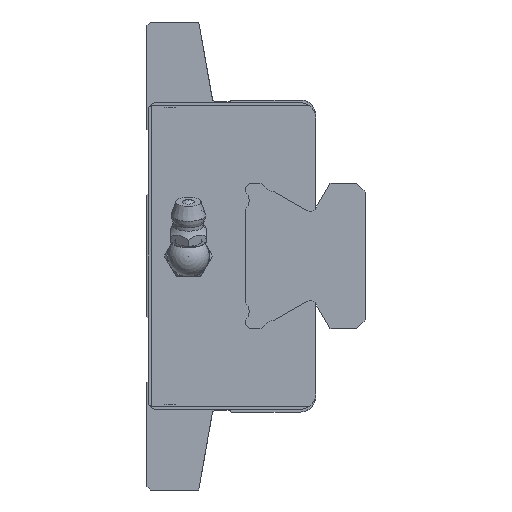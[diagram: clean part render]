
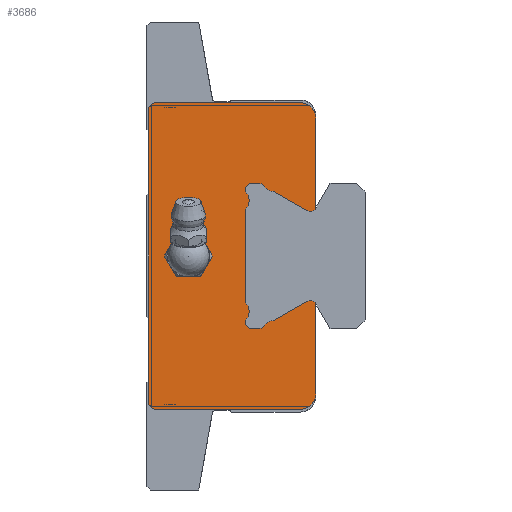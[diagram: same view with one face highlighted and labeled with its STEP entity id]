
A CAD part, left-side view. The second image highlights one B-rep face of the part: STEP entity #3686.
In plain terms, the highlighted planar face has unit normal (-1, 0, 0).
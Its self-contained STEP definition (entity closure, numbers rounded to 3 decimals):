
#111=LINE('',#5713,#443);
#116=LINE('',#5724,#448);
#128=LINE('',#5750,#460);
#135=LINE('',#5779,#467);
#143=LINE('',#5793,#475);
#151=LINE('',#5807,#483);
#153=LINE('',#5812,#485);
#158=LINE('',#5822,#490);
#159=LINE('',#5824,#491);
#160=LINE('',#5828,#492);
#161=LINE('',#5832,#493);
#162=LINE('',#5834,#494);
#163=LINE('',#5836,#495);
#164=LINE('',#5838,#496);
#165=LINE('',#5842,#497);
#166=LINE('',#5846,#498);
#167=LINE('',#5848,#499);
#168=LINE('',#5850,#500);
#169=LINE('',#5852,#501);
#170=LINE('',#5856,#502);
#443=VECTOR('',#4493,1000.);
#448=VECTOR('',#4500,1000.);
#460=VECTOR('',#4518,1000.);
#467=VECTOR('',#4547,1000.);
#475=VECTOR('',#4565,1000.);
#483=VECTOR('',#4577,1000.);
#485=VECTOR('',#4581,1000.);
#490=VECTOR('',#4590,1000.);
#491=VECTOR('',#4591,1000.);
#492=VECTOR('',#4594,1000.);
#493=VECTOR('',#4597,1000.);
#494=VECTOR('',#4598,1000.);
#495=VECTOR('',#4599,1000.);
#496=VECTOR('',#4600,1000.);
#497=VECTOR('',#4603,1000.);
#498=VECTOR('',#4606,1000.);
#499=VECTOR('',#4607,1000.);
#500=VECTOR('',#4608,1000.);
#501=VECTOR('',#4609,1000.);
#502=VECTOR('',#4612,1000.);
#744=PLANE('',#3987);
#958=CIRCLE('',#3971,3.);
#962=CIRCLE('',#3977,3.);
#964=CIRCLE('',#3988,3.);
#965=CIRCLE('',#3989,1.);
#966=CIRCLE('',#3990,2.483);
#967=CIRCLE('',#3991,2.477);
#968=CIRCLE('',#3992,2.477);
#969=CIRCLE('',#3993,2.483);
#970=CIRCLE('',#3994,1.);
#1352=ORIENTED_EDGE('',*,*,#2266,.T.);
#1353=ORIENTED_EDGE('',*,*,#2267,.F.);
#1354=ORIENTED_EDGE('',*,*,#2259,.F.);
#1355=ORIENTED_EDGE('',*,*,#2231,.F.);
#1356=ORIENTED_EDGE('',*,*,#2227,.F.);
#1357=ORIENTED_EDGE('',*,*,#2209,.F.);
#1358=ORIENTED_EDGE('',*,*,#2251,.F.);
#1359=ORIENTED_EDGE('',*,*,#2214,.F.);
#1360=ORIENTED_EDGE('',*,*,#2242,.F.);
#1361=ORIENTED_EDGE('',*,*,#2239,.F.);
#1362=ORIENTED_EDGE('',*,*,#2261,.F.);
#1363=ORIENTED_EDGE('',*,*,#2268,.F.);
#1364=ORIENTED_EDGE('',*,*,#2269,.T.);
#1365=ORIENTED_EDGE('',*,*,#2270,.F.);
#1366=ORIENTED_EDGE('',*,*,#2271,.T.);
#1367=ORIENTED_EDGE('',*,*,#2272,.F.);
#1368=ORIENTED_EDGE('',*,*,#2273,.F.);
#1369=ORIENTED_EDGE('',*,*,#2274,.F.);
#1370=ORIENTED_EDGE('',*,*,#2275,.F.);
#1371=ORIENTED_EDGE('',*,*,#2276,.T.);
#1372=ORIENTED_EDGE('',*,*,#2277,.F.);
#1373=ORIENTED_EDGE('',*,*,#2278,.T.);
#1374=ORIENTED_EDGE('',*,*,#2279,.F.);
#1375=ORIENTED_EDGE('',*,*,#2280,.F.);
#1376=ORIENTED_EDGE('',*,*,#2281,.F.);
#1377=ORIENTED_EDGE('',*,*,#2282,.F.);
#1378=ORIENTED_EDGE('',*,*,#2283,.T.);
#1379=ORIENTED_EDGE('',*,*,#2284,.F.);
#1380=ORIENTED_EDGE('',*,*,#2285,.T.);
#2209=EDGE_CURVE('',#2686,#2687,#111,.T.);
#2214=EDGE_CURVE('',#2691,#2692,#116,.T.);
#2227=EDGE_CURVE('',#2687,#2703,#128,.T.);
#2231=EDGE_CURVE('',#2703,#2705,#958,.T.);
#2239=EDGE_CURVE('',#2712,#2713,#962,.T.);
#2242=EDGE_CURVE('',#2713,#2691,#135,.T.);
#2251=EDGE_CURVE('',#2692,#2686,#143,.T.);
#2259=EDGE_CURVE('',#2705,#2716,#151,.T.);
#2261=EDGE_CURVE('',#2719,#2712,#153,.T.);
#2266=EDGE_CURVE('',#2723,#2723,#964,.T.);
#2267=EDGE_CURVE('',#2716,#2724,#158,.T.);
#2268=EDGE_CURVE('',#2725,#2719,#159,.T.);
#2269=EDGE_CURVE('',#2725,#2726,#965,.F.);
#2270=EDGE_CURVE('',#2727,#2726,#160,.T.);
#2271=EDGE_CURVE('',#2727,#2728,#966,.F.);
#2272=EDGE_CURVE('',#2729,#2728,#161,.T.);
#2273=EDGE_CURVE('',#2730,#2729,#162,.T.);
#2274=EDGE_CURVE('',#2731,#2730,#163,.T.);
#2275=EDGE_CURVE('',#2732,#2731,#164,.T.);
#2276=EDGE_CURVE('',#2732,#2733,#967,.F.);
#2277=EDGE_CURVE('',#2734,#2733,#165,.T.);
#2278=EDGE_CURVE('',#2734,#2735,#968,.F.);
#2279=EDGE_CURVE('',#2736,#2735,#166,.T.);
#2280=EDGE_CURVE('',#2737,#2736,#167,.T.);
#2281=EDGE_CURVE('',#2738,#2737,#168,.T.);
#2282=EDGE_CURVE('',#2739,#2738,#169,.T.);
#2283=EDGE_CURVE('',#2739,#2740,#969,.F.);
#2284=EDGE_CURVE('',#2741,#2740,#170,.T.);
#2285=EDGE_CURVE('',#2741,#2724,#970,.F.);
#2686=VERTEX_POINT('',#5712);
#2687=VERTEX_POINT('',#5714);
#2691=VERTEX_POINT('',#5723);
#2692=VERTEX_POINT('',#5725);
#2703=VERTEX_POINT('',#5751);
#2705=VERTEX_POINT('',#5758);
#2712=VERTEX_POINT('',#5773);
#2713=VERTEX_POINT('',#5775);
#2716=VERTEX_POINT('',#5800);
#2719=VERTEX_POINT('',#5810);
#2723=VERTEX_POINT('',#5821);
#2724=VERTEX_POINT('',#5823);
#2725=VERTEX_POINT('',#5825);
#2726=VERTEX_POINT('',#5827);
#2727=VERTEX_POINT('',#5829);
#2728=VERTEX_POINT('',#5831);
#2729=VERTEX_POINT('',#5833);
#2730=VERTEX_POINT('',#5835);
#2731=VERTEX_POINT('',#5837);
#2732=VERTEX_POINT('',#5839);
#2733=VERTEX_POINT('',#5841);
#2734=VERTEX_POINT('',#5843);
#2735=VERTEX_POINT('',#5845);
#2736=VERTEX_POINT('',#5847);
#2737=VERTEX_POINT('',#5849);
#2738=VERTEX_POINT('',#5851);
#2739=VERTEX_POINT('',#5853);
#2740=VERTEX_POINT('',#5855);
#2741=VERTEX_POINT('',#5857);
#3056=EDGE_LOOP('',(#1352));
#3057=EDGE_LOOP('',(#1353,#1354,#1355,#1356,#1357,#1358,#1359,#1360,#1361,
#1362,#1363,#1364,#1365,#1366,#1367,#1368,#1369,#1370,#1371,#1372,#1373,
#1374,#1375,#1376,#1377,#1378,#1379,#1380));
#3371=FACE_BOUND('',#3056,.T.);
#3372=FACE_BOUND('',#3057,.T.);
#3686=ADVANCED_FACE('',(#3371,#3372),#744,.F.);
#3971=AXIS2_PLACEMENT_3D('',#5757,#4526,#4527);
#3977=AXIS2_PLACEMENT_3D('',#5774,#4541,#4542);
#3987=AXIS2_PLACEMENT_3D('',#5819,#4586,#4587);
#3988=AXIS2_PLACEMENT_3D('',#5820,#4588,#4589);
#3989=AXIS2_PLACEMENT_3D('',#5826,#4592,#4593);
#3990=AXIS2_PLACEMENT_3D('',#5830,#4595,#4596);
#3991=AXIS2_PLACEMENT_3D('',#5840,#4601,#4602);
#3992=AXIS2_PLACEMENT_3D('',#5844,#4604,#4605);
#3993=AXIS2_PLACEMENT_3D('',#5854,#4610,#4611);
#3994=AXIS2_PLACEMENT_3D('',#5858,#4613,#4614);
#4493=DIRECTION('',(0.,-0.707,0.707));
#4500=DIRECTION('',(0.,0.707,0.707));
#4518=DIRECTION('',(0.,-1.,0.));
#4526=DIRECTION('',(1.,0.,0.));
#4527=DIRECTION('',(0.,0.,-1.));
#4541=DIRECTION('',(1.,0.,0.));
#4542=DIRECTION('',(0.,0.,-1.));
#4547=DIRECTION('',(0.,1.,0.));
#4565=DIRECTION('',(0.,0.,1.));
#4577=DIRECTION('',(0.,0.,-1.));
#4581=DIRECTION('',(0.,0.,-1.));
#4586=DIRECTION('',(1.,0.,0.));
#4587=DIRECTION('',(0.,0.,-1.));
#4588=DIRECTION('',(1.,0.,0.));
#4589=DIRECTION('',(0.,0.,-1.));
#4590=DIRECTION('',(0.,0.5,-0.866));
#4591=DIRECTION('',(0.,-0.5,-0.866));
#4592=DIRECTION('',(1.,0.,0.));
#4593=DIRECTION('',(0.,0.,-1.));
#4594=DIRECTION('',(0.,-0.869,0.495));
#4595=DIRECTION('',(1.,0.,0.));
#4596=DIRECTION('',(0.,0.,-1.));
#4597=DIRECTION('',(0.,-0.87,0.494));
#4598=DIRECTION('',(0.,-1.,0.));
#4599=DIRECTION('',(0.,-0.707,-0.707));
#4600=DIRECTION('',(0.,0.,-1.));
#4601=DIRECTION('',(1.,0.,0.));
#4602=DIRECTION('',(0.,0.,-1.));
#4603=DIRECTION('',(0.,0.,-1.));
#4604=DIRECTION('',(1.,0.,0.));
#4605=DIRECTION('',(0.,0.,-1.));
#4606=DIRECTION('',(0.,0.,-1.));
#4607=DIRECTION('',(0.,0.707,-0.707));
#4608=DIRECTION('',(0.,1.,0.));
#4609=DIRECTION('',(0.,0.87,0.494));
#4610=DIRECTION('',(1.,0.,0.));
#4611=DIRECTION('',(0.,0.,-1.));
#4612=DIRECTION('',(0.,0.869,0.495));
#4613=DIRECTION('',(1.,0.,0.));
#4614=DIRECTION('',(0.,0.,-1.));
#5712=CARTESIAN_POINT('',(-33.35,32.1,28.5));
#5713=CARTESIAN_POINT('',(-33.35,32.1,28.5));
#5714=CARTESIAN_POINT('',(-33.35,31.1,29.5));
#5723=CARTESIAN_POINT('',(-33.35,31.1,-29.5));
#5724=CARTESIAN_POINT('',(-33.35,31.1,-29.5));
#5725=CARTESIAN_POINT('',(-33.35,32.1,-28.5));
#5750=CARTESIAN_POINT('',(-33.35,31.1,29.5));
#5751=CARTESIAN_POINT('',(-33.35,3.,29.5));
#5757=CARTESIAN_POINT('',(-33.35,3.,26.5));
#5758=CARTESIAN_POINT('',(-33.35,0.,26.5));
#5773=CARTESIAN_POINT('',(-33.35,0.,-26.5));
#5774=CARTESIAN_POINT('',(-33.35,3.,-26.5));
#5775=CARTESIAN_POINT('',(-33.35,3.,-29.5));
#5779=CARTESIAN_POINT('',(-33.35,3.,-29.5));
#5793=CARTESIAN_POINT('',(-33.35,32.1,-28.5));
#5800=CARTESIAN_POINT('',(-33.35,0.,9.266));
#5807=CARTESIAN_POINT('',(-33.35,0.,26.5));
#5810=CARTESIAN_POINT('',(-33.35,0.,-9.266));
#5812=CARTESIAN_POINT('',(-33.35,0.,26.5));
#5819=CARTESIAN_POINT('',(-33.35,3.,26.5));
#5820=CARTESIAN_POINT('',(-33.35,24.5,0.));
#5821=CARTESIAN_POINT('',(-33.35,24.5,-3.));
#5822=CARTESIAN_POINT('',(-33.35,-6.71,20.9));
#5823=CARTESIAN_POINT('',(-33.35,0.142,9.02));
#5824=CARTESIAN_POINT('',(-33.35,16.228,18.871));
#5825=CARTESIAN_POINT('',(-33.35,0.142,-9.02));
#5826=CARTESIAN_POINT('',(-33.35,1.008,-9.52));
#5827=CARTESIAN_POINT('',(-33.35,1.518,-8.66));
#5828=CARTESIAN_POINT('',(-33.35,-12.482,-0.687));
#5829=CARTESIAN_POINT('',(-33.35,8.13,-12.425));
#5830=CARTESIAN_POINT('',(-33.35,7.93,-14.9));
#5831=CARTESIAN_POINT('',(-33.35,10.045,-13.6));
#5832=CARTESIAN_POINT('',(-33.35,-12.5,-0.799));
#5833=CARTESIAN_POINT('',(-33.35,10.75,-14.));
#5834=CARTESIAN_POINT('',(-33.35,3.,-14.));
#5835=CARTESIAN_POINT('',(-33.35,12.71,-14.));
#5836=CARTESIAN_POINT('',(-33.35,28.105,1.395));
#5837=CARTESIAN_POINT('',(-33.35,13.5,-13.21));
#5838=CARTESIAN_POINT('',(-33.35,13.5,26.5));
#5839=CARTESIAN_POINT('',(-33.35,13.5,-12.362));
#5840=CARTESIAN_POINT('',(-33.35,15.29,-10.65));
#5841=CARTESIAN_POINT('',(-33.35,13.5,-8.938));
#5842=CARTESIAN_POINT('',(-33.35,13.5,26.5));
#5843=CARTESIAN_POINT('',(-33.35,13.5,8.938));
#5844=CARTESIAN_POINT('',(-33.35,15.29,10.65));
#5845=CARTESIAN_POINT('',(-33.35,13.5,12.362));
#5846=CARTESIAN_POINT('',(-33.35,13.5,26.5));
#5847=CARTESIAN_POINT('',(-33.35,13.5,13.21));
#5848=CARTESIAN_POINT('',(-33.35,1.605,25.105));
#5849=CARTESIAN_POINT('',(-33.35,12.71,14.));
#5850=CARTESIAN_POINT('',(-33.35,3.,14.));
#5851=CARTESIAN_POINT('',(-33.35,10.75,14.));
#5852=CARTESIAN_POINT('',(-33.35,10.256,13.72));
#5853=CARTESIAN_POINT('',(-33.35,10.045,13.6));
#5854=CARTESIAN_POINT('',(-33.35,7.93,14.9));
#5855=CARTESIAN_POINT('',(-33.35,8.13,12.425));
#5856=CARTESIAN_POINT('',(-33.35,10.309,13.666));
#5857=CARTESIAN_POINT('',(-33.35,1.518,8.66));
#5858=CARTESIAN_POINT('',(-33.35,1.008,9.52));
